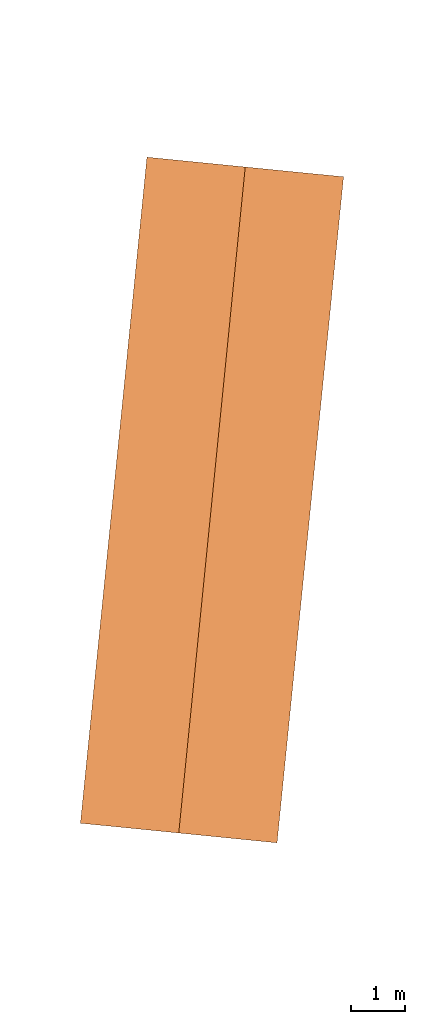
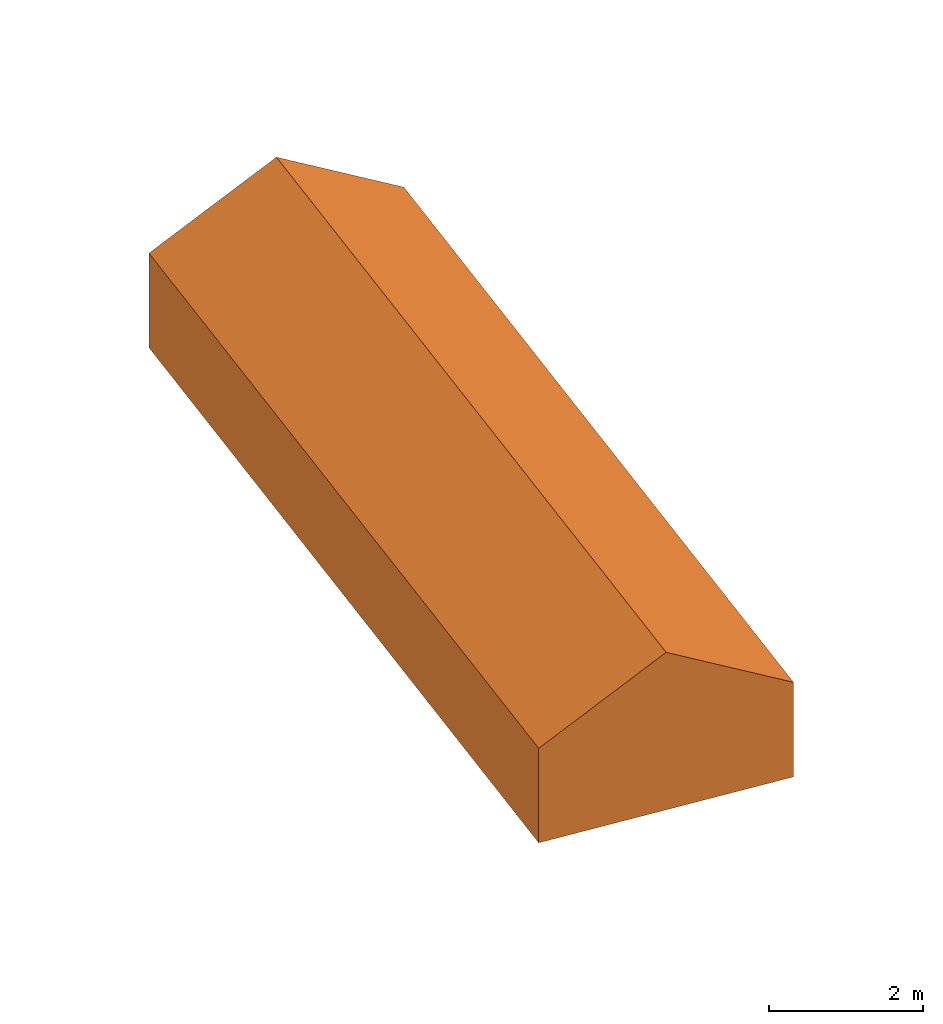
# One storey, part 298 of 301: 1 proxy.
"""IFC2X3 building model written with IfcOpenShell, lengths in millimetres."""

from ifc_helpers import new_model, entity, si_unit, converted_unit, derived_unit, money_unit, direction, frame, origin_with_axes, place, context, subcontext, project, spatial, open_shell, surface_model, material, type_object, element, save


model = new_model("IFC2X3")

# Units and contexts
model_context = context("Model", 3, precision=0.01, world=origin_with_axes(), true_north=direction((0.0, 1.0)))
body_context = subcontext(model_context, "Body", "Model", "MODEL_VIEW")
ifc_project = project(units=[si_unit("LENGTHUNIT", "METRE", prefix="MILLI"), si_unit("AREAUNIT", "SQUARE_METRE"), si_unit("VOLUMEUNIT", "CUBIC_METRE"), converted_unit("PLANEANGLEUNIT", "DEGREE", entity("IfcPlaneAngleMeasure", 0.0174532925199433), si_unit("PLANEANGLEUNIT", "RADIAN"), dimensions=[0, 0, 0, 0, 0, 0, 0]), money_unit("EUR"), converted_unit("TIMEUNIT", "Year", entity("IfcTimeMeasure", 31557600.0), si_unit("TIMEUNIT", "SECOND"), dimensions=[0, 0, 1, 0, 0, 0, 0]), si_unit("MASSUNIT", "GRAM", prefix="KILO"), si_unit("THERMODYNAMICTEMPERATUREUNIT", "DEGREE_CELSIUS"), si_unit("LUMINOUSINTENSITYUNIT", "LUMEN"), si_unit("ENERGYUNIT", "JOULE", prefix="MEGA"), derived_unit("THERMALCONDUCTANCEUNIT", [(si_unit("POWERUNIT", "WATT"), 1), (si_unit("LENGTHUNIT", "METRE"), -1), (si_unit("THERMODYNAMICTEMPERATUREUNIT", "KELVIN"), -1)]), derived_unit("SPECIFICHEATCAPACITYUNIT", [(si_unit("ENERGYUNIT", "JOULE"), 1), (si_unit("MASSUNIT", "GRAM", prefix="KILO"), -1), (si_unit("THERMODYNAMICTEMPERATUREUNIT", "KELVIN"), -1)]), derived_unit("MASSDENSITYUNIT", [(si_unit("MASSUNIT", "GRAM", prefix="KILO"), 1), (si_unit("VOLUMEUNIT", "CUBIC_METRE"), -1)])], contexts=[model_context])

# Site, building, storey
site_placement = place(None, frame((0.0, 0.0, 8650.0), z_axis=(0.0, 0.0, 1.0), x_axis=(1.0, 0.0, 0.0)))
site = spatial("IfcSite", under=ifc_project, at=site_placement, Name="43301:001:0844", CompositionType="ELEMENT")
building_placement = place(site_placement, origin_with_axes())
building = spatial("IfcBuilding", under=site, at=building_placement, Name="Kuressaare Ametikooli tuulikute mehaanikute õppekorpus", CompositionType="ELEMENT")
storey_placement = place(building_placement, origin_with_axes())
storey = spatial("IfcBuildingStorey", under=building, at=storey_placement, Name="1.korrus", CompositionType="ELEMENT", Elevation=0.0)

# Proxy
ifc_material = material(Name="GENEERILINE - KONSTRUKTRIOON")
building_element_proxy_type = type_object("IfcBuildingElementProxyType", Name="GENEERILINE - KONSTRUKTRIOON", PredefinedType="NOTDEFINED")
proxy_placement = place(storey_placement, frame((148412.8295782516, -10694.98825117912, -700.0), z_axis=(0.0, 0.0, 1.0), x_axis=(1.0, 0.0, 0.0)))
element("IfcBuildingElementProxy", 1, at=proxy_placement, inside=storey, type_object=building_element_proxy_type, material=ifc_material, context=body_context, shape_type="SurfaceModel", body=[
    surface_model("IfcShellBasedSurfaceModel", [(0.0, 0.0, -500.0), (0.0, 0.0, 1000.0), (1223.768033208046, 12254.82670745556, 1000.0), (1223.768033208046, 12254.82670745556, -500.0), (3618.022692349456, -361.2960525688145, -500.0), (3618.022692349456, -361.2960525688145, 1000.0), (1809.011346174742, -180.6480262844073, 2000.0), (3032.779379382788, 12074.17868117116, 2000.0), (4841.790725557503, 11893.53065488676, 1000.0), (4841.790725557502, 11893.53065488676, -500.0)], [open_shell([[[0, 1, 2, 3]], [[1, 0, 4, 5, 6]], [[2, 1, 6, 7]], [[3, 2, 7, 8, 9]], [[5, 4, 9, 8]], [[6, 5, 8, 7]]])]),
])

save(model, "model.ifc")
